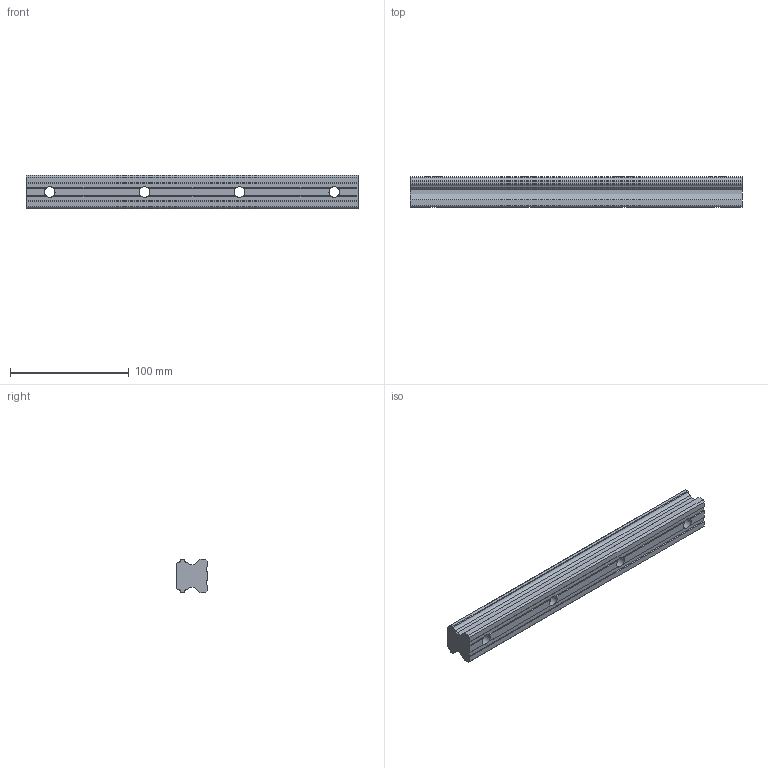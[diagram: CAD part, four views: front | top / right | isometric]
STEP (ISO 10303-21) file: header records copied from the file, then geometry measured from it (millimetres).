
FILE_DESCRIPTION(/* description */ ('STEP AP203'),/* implementation_level */ '2;1');
FILE_NAME(/* name */ 'HSR30-280L(GK) RAIL(20)',/* time_stamp */ '2024-05-21T04:44:36+02:00',/* author */ ('License CC BY-ND 4.0'),/* organization */ ('CADENAS'),/* preprocessor_version */ 'ST-DEVELOPER v19.3',/* originating_system */ 'PARTsolutions',/* authorisation */ ' ');
FILE_SCHEMA (('CONFIG_CONTROL_DESIGN'));
Length unit declared in the file: millimetre
Products named in the file (1): HSR30-280L(GK) RAIL(20)
Bounding box: 280 x 26 x 28 mm (x, y, z)
Volume: 162345.2 mm3; surface area: 35621 mm2
Topology: 1 solids, 1 shells, 58 faces, 168 edges, 112 vertices
Faces by surface type: plane 46, cylinder 12
Full cylindrical faces by diameter (mm): 9 x4, 14 x4
Entity records: 1894 total; most frequent: DIRECTION 326, CARTESIAN_POINT 323, ORIENTED_EDGE 312, EDGE_CURVE 156, AXIS2_PLACEMENT_3D 111, VERTEX_POINT 108, LINE 104, VECTOR 104
